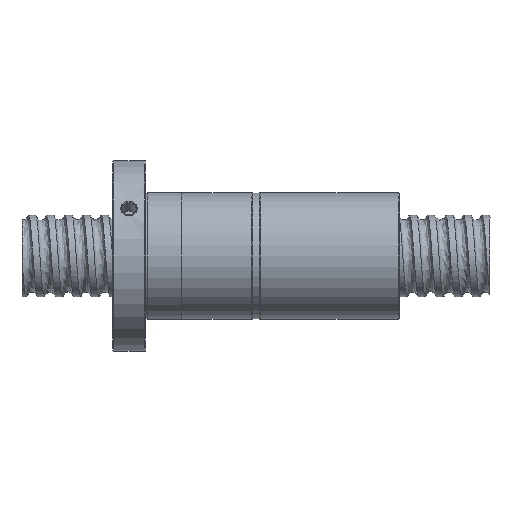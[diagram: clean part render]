
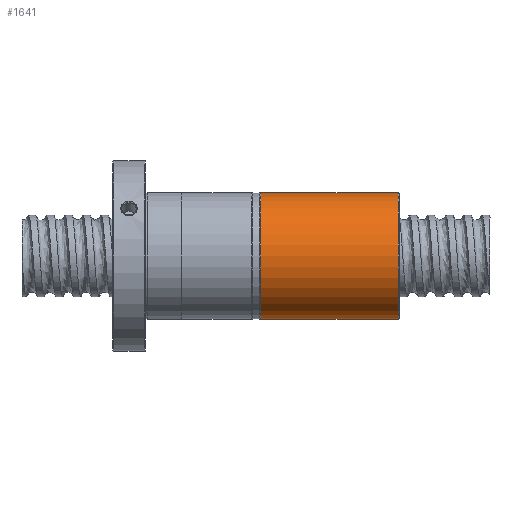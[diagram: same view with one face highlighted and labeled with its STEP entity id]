
A CAD part, front view. The second image highlights one B-rep face of the part: STEP entity #1641.
In plain terms, the highlighted cylindrical face has radius 34.9 mm (diameter 69.8 mm), a partial arc.
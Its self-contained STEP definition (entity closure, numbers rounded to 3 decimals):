
#988 = VERTEX_POINT ( 'NONE', #47421 ) ;
#989 = VERTEX_POINT ( 'NONE', #47420 ) ;
#1019 = VERTEX_POINT ( 'NONE', #19438 ) ;
#1020 = VERTEX_POINT ( 'NONE', #19437 ) ;
#1309 = EDGE_CURVE ( 'NONE', #989, #1019, #20070, .T. ) ;
#1312 = EDGE_CURVE ( 'NONE', #988, #1020, #20013, .T. ) ;
#1641 = ADVANCED_FACE ( 'NONE', ( #20988 ), #20987, .T. ) ;
#1643 = EDGE_LOOP ( 'NONE', ( #1644, #1746, #1748, #1731 ) ) ;
#1644 = ORIENTED_EDGE ( 'NONE', *, *, #1309, .F. ) ;
#1731 = ORIENTED_EDGE ( 'NONE', *, *, #1732, .T. ) ;
#1732 = EDGE_CURVE ( 'NONE', #1020, #1019, #21210, .T. ) ;
#1746 = ORIENTED_EDGE ( 'NONE', *, *, #1747, .T. ) ;
#1747 = EDGE_CURVE ( 'NONE', #989, #988, #21332, .T. ) ;
#1748 = ORIENTED_EDGE ( 'NONE', *, *, #1312, .T. ) ;
#19437 = CARTESIAN_POINT ( 'NONE',  ( -76.51, 0., 34.9 ) ) ;
#19438 = CARTESIAN_POINT ( 'NONE',  ( -76.51, 0., -34.9 ) ) ;
#20010 = DIRECTION ( 'NONE',  ( -1., 0., 0. ) ) ;
#20011 = VECTOR ( 'NONE', #20010, 1000. ) ;
#20012 = CARTESIAN_POINT ( 'NONE',  ( 0., 0., 34.9 ) ) ;
#20013 = LINE ( 'NONE', #20012, #20011 ) ;
#20014 = DIRECTION ( 'NONE',  ( -1., 0., 0. ) ) ;
#20015 = VECTOR ( 'NONE', #20014, 1000. ) ;
#20016 = CARTESIAN_POINT ( 'NONE',  ( 0., 0., -34.9 ) ) ;
#20070 = LINE ( 'NONE', #20016, #20015 ) ;
#20983 = DIRECTION ( 'NONE',  ( 0., 0., 1. ) ) ;
#20984 = DIRECTION ( 'NONE',  ( -1., 0., 0. ) ) ;
#20985 = AXIS2_PLACEMENT_3D ( 'NONE', #20993, #20984, #20983 ) ;
#20987 = CYLINDRICAL_SURFACE ( 'NONE', #20985, 34.9 ) ;
#20988 = FACE_OUTER_BOUND ( 'NONE', #1643, .T. ) ;
#20993 = CARTESIAN_POINT ( 'NONE',  ( 0., 0., 0. ) ) ;
#21206 = DIRECTION ( 'NONE',  ( 0., 0., 1. ) ) ;
#21207 = DIRECTION ( 'NONE',  ( 1., 0., 0. ) ) ;
#21208 = CARTESIAN_POINT ( 'NONE',  ( -76.51, 0., 0. ) ) ;
#21209 = AXIS2_PLACEMENT_3D ( 'NONE', #21208, #21207, #21206 ) ;
#21210 = CIRCLE ( 'NONE', #21209, 34.9 ) ;
#21328 = DIRECTION ( 'NONE',  ( 0., 0., -1. ) ) ;
#21329 = DIRECTION ( 'NONE',  ( -1., 0., 0. ) ) ;
#21330 = CARTESIAN_POINT ( 'NONE',  ( -0.5, 0., 0. ) ) ;
#21331 = AXIS2_PLACEMENT_3D ( 'NONE', #21330, #21329, #21328 ) ;
#21332 = CIRCLE ( 'NONE', #21331, 34.9 ) ;
#47420 = CARTESIAN_POINT ( 'NONE',  ( -0.5, 0., -34.9 ) ) ;
#47421 = CARTESIAN_POINT ( 'NONE',  ( -0.5, 0., 34.9 ) ) ;
